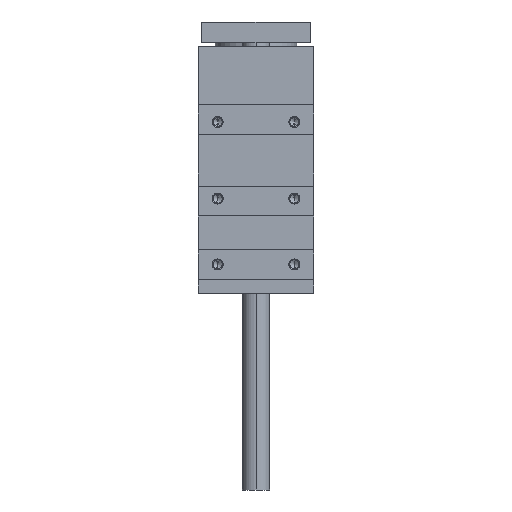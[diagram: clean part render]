
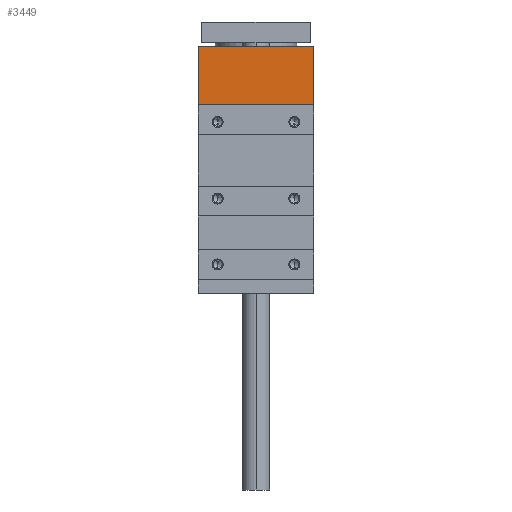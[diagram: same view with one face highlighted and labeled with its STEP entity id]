
A CAD part, left-side view. The second image highlights one B-rep face of the part: STEP entity #3449.
In plain terms, the highlighted planar face has unit normal (-1, 0, 0).
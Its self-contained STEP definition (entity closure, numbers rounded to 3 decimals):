
#455 = VERTEX_POINT ( 'NONE', #2694 ) ;
#650 = CARTESIAN_POINT ( 'NONE',  ( -75.7, 42.5, 71. ) ) ;
#1345 = AXIS2_PLACEMENT_3D ( 'NONE', #8914, #2459, #8124 ) ;
#1420 = VERTEX_POINT ( 'NONE', #650 ) ;
#1600 = DIRECTION ( 'NONE',  ( 0., 0., -1. ) ) ;
#1681 = LINE ( 'NONE', #4893, #9807 ) ;
#1697 = ORIENTED_EDGE ( 'NONE', *, *, #8694, .T. ) ;
#1758 = EDGE_LOOP ( 'NONE', ( #2742, #1697, #7884, #9507 ) ) ;
#2132 = VECTOR ( 'NONE', #6578, 1000. ) ;
#2226 = LINE ( 'NONE', #8468, #6386 ) ;
#2459 = DIRECTION ( 'NONE',  ( 1., 0., 0. ) ) ;
#2694 = CARTESIAN_POINT ( 'NONE',  ( -75.7, -42.5, 28. ) ) ;
#2742 = ORIENTED_EDGE ( 'NONE', *, *, #8942, .T. ) ;
#3353 = CARTESIAN_POINT ( 'NONE',  ( -75.7, 85., 28. ) ) ;
#3449 = ADVANCED_FACE ( 'NONE', ( #4947 ), #8812, .F. ) ;
#3684 = VERTEX_POINT ( 'NONE', #5938 ) ;
#3892 = DIRECTION ( 'NONE',  ( 0., 0., -1. ) ) ;
#4084 = EDGE_CURVE ( 'NONE', #3684, #455, #1681, .T. ) ;
#4464 = CARTESIAN_POINT ( 'NONE',  ( -75.7, 42.5, 0. ) ) ;
#4893 = CARTESIAN_POINT ( 'NONE',  ( -75.7, -42.5, 0. ) ) ;
#4947 = FACE_OUTER_BOUND ( 'NONE', #1758, .T. ) ;
#5938 = CARTESIAN_POINT ( 'NONE',  ( -75.7, -42.5, 71. ) ) ;
#6386 = VECTOR ( 'NONE', #9320, 1000. ) ;
#6578 = DIRECTION ( 'NONE',  ( 0., -1., 0. ) ) ;
#7326 = LINE ( 'NONE', #3353, #2132 ) ;
#7884 = ORIENTED_EDGE ( 'NONE', *, *, #4084, .F. ) ;
#8124 = DIRECTION ( 'NONE',  ( 0., 1., 0. ) ) ;
#8468 = CARTESIAN_POINT ( 'NONE',  ( -75.7, 85., 71. ) ) ;
#8694 = EDGE_CURVE ( 'NONE', #9263, #455, #7326, .T. ) ;
#8812 = PLANE ( 'NONE',  #1345 ) ;
#8901 = VECTOR ( 'NONE', #1600, 1000. ) ;
#8914 = CARTESIAN_POINT ( 'NONE',  ( -75.7, 85., 28. ) ) ;
#8942 = EDGE_CURVE ( 'NONE', #1420, #9263, #9574, .T. ) ;
#9263 = VERTEX_POINT ( 'NONE', #9939 ) ;
#9320 = DIRECTION ( 'NONE',  ( 0., -1., 0. ) ) ;
#9507 = ORIENTED_EDGE ( 'NONE', *, *, #10414, .F. ) ;
#9574 = LINE ( 'NONE', #4464, #8901 ) ;
#9807 = VECTOR ( 'NONE', #3892, 1000. ) ;
#9939 = CARTESIAN_POINT ( 'NONE',  ( -75.7, 42.5, 28. ) ) ;
#10414 = EDGE_CURVE ( 'NONE', #1420, #3684, #2226, .T. ) ;
